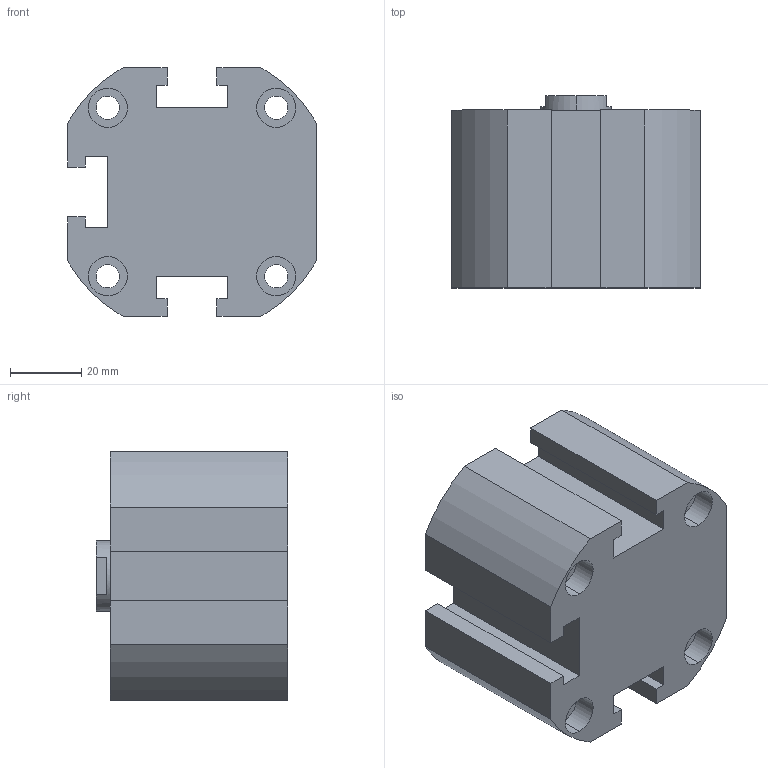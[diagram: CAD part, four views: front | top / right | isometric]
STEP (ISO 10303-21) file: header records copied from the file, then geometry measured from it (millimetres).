
FILE_DESCRIPTION (( 'STEP AP203' ), '1' );
FILE_NAME ('XG#2-50D-10.STEP', '2016-05-24T01:53:04', ( '' ), ( '' ), 'SwSTEP 2.0', 'SolidWorks 2014', '' );
FILE_SCHEMA (( 'CONFIG_CONTROL_DESIGN' ));
Length unit declared in the file: millimetre
Products named in the file (1): XG#2-50D-10
Bounding box: 70 x 54 x 70 mm (x, y, z)
Volume: 183644.3 mm3; surface area: 31627.4 mm2
Topology: 1 solids, 1 shells, 114 faces, 283 edges, 183 vertices
Faces by surface type: cylinder 54, plane 50, cone 10
Entity records: 3474 total; most frequent: DIRECTION 627, CARTESIAN_POINT 575, ORIENTED_EDGE 554, EDGE_CURVE 277, AXIS2_PLACEMENT_3D 235, VERTEX_POINT 183, LINE 157, VECTOR 157
